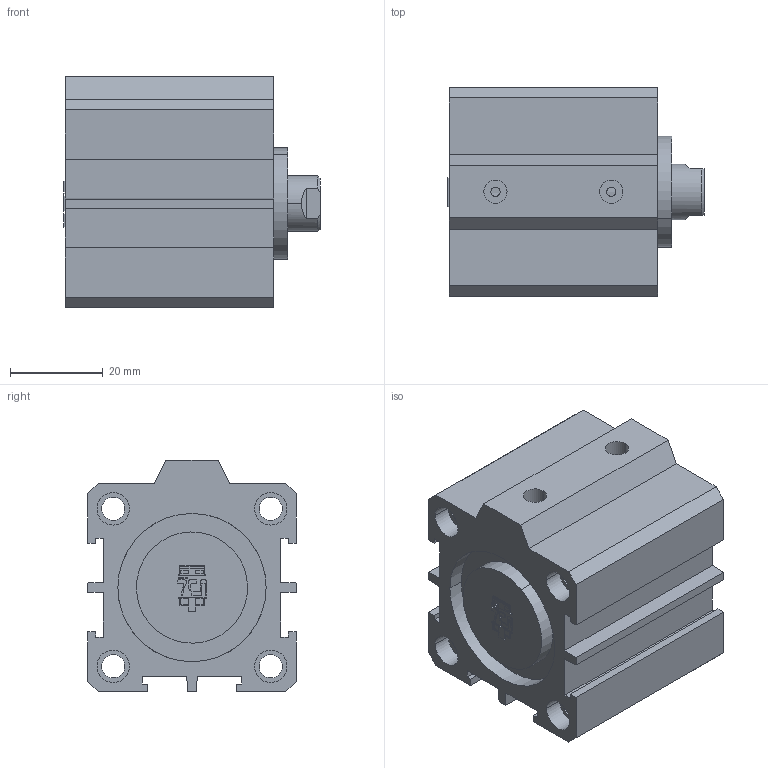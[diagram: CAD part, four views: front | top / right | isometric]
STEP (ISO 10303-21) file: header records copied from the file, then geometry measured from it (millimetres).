
FILE_DESCRIPTION(('CATIA V5 STEP Exchange'),'2;1');
FILE_NAME('D:\PDA\PDA-STP\PDA 32-12\PDA 32-12-10.stp','2016-02-02T10:40:12+00:00',('none'),('none'),'Version 5-6 Release 2012','CATIA V5 STEP AP203','none');
FILE_SCHEMA(('CONFIG_CONTROL_DESIGN'));
Length unit declared in the file: millimetre
Products named in the file (1): PDA 32-12-10-00
Assembly tree (2 placements, depth 2):
  PDA 32-12-10-00
    #58
    #6193
Bounding box: 55.25 x 45 x 50 mm (x, y, z)
Volume: 65775.4 mm3; surface area: 27078.6 mm2
Topology: 2 solids, 2 shells, 233 faces, 602 edges, 404 vertices
Faces by surface type: plane 163, cylinder 68, cone 2
Entity records: 6699 total; most frequent: CARTESIAN_POINT 1225, ORIENTED_EDGE 1204, DIRECTION 900, EDGE_CURVE 602, VECTOR 444, LINE 444, VERTEX_POINT 404, AXIS2_PLACEMENT_3D 301
